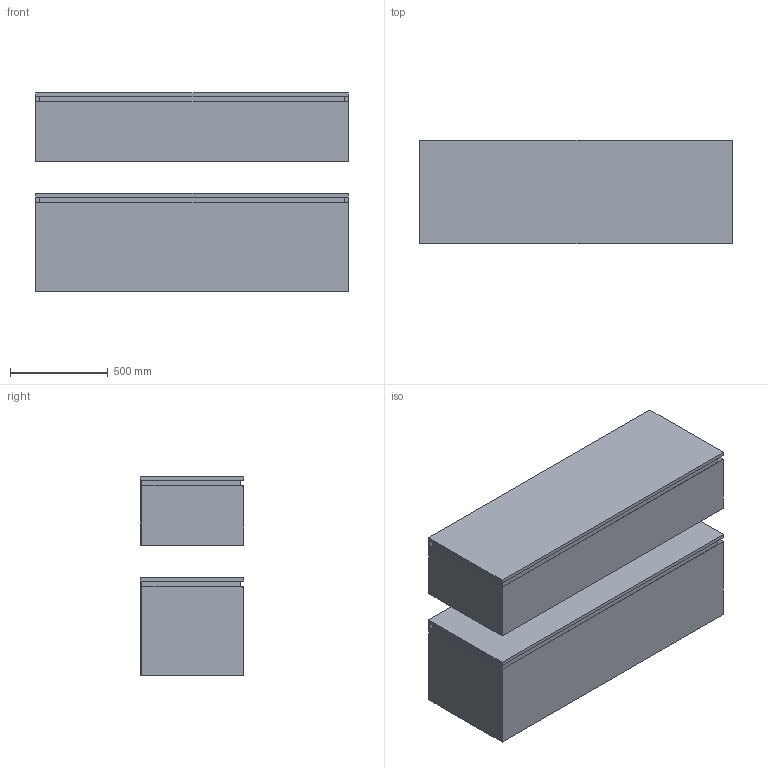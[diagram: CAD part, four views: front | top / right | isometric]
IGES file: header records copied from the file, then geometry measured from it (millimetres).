
Global section: file name: \\Archi-NAS\Comune\00_PER SITO INTERNET\JACOPO\ARCHIVIO 3D\MOBILI\ELEGANCE\ELEGANCE_01.igs; native system: Rhinoceros ( Feb 23 2021 ); preprocessor: Trout Lake IGES 012 Feb 23 2021; date: 230607.141629; units: millimetre
Bounding box: 1600 x 530 x 1014.5 mm (x, y, z)
Surface area: 22188753 mm2 (no closed solid volume)
Topology: 0 solids, 0 shells, 156 faces, 688 edges, 688 vertices
Faces by surface type: bspline 156
